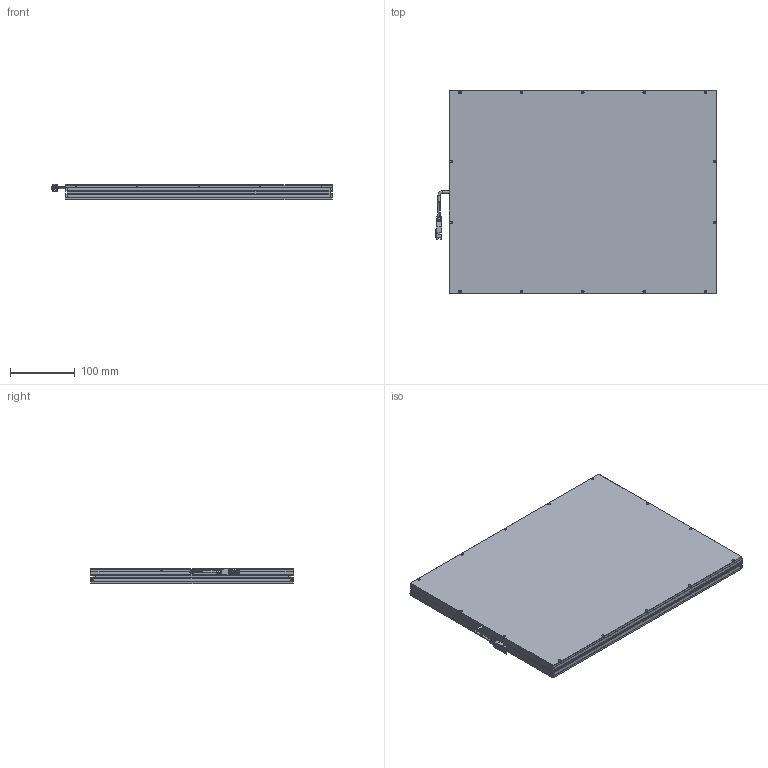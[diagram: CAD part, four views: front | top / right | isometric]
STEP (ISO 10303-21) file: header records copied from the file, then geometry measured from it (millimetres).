
FILE_DESCRIPTION (( 'STEP AP203' ), '1' );
FILE_NAME ('CRT-2FLD400300-¼òÒ×3DÍ¼.STEP', '2021-11-24T01:10:33', ( 'Admin' ), ( '' ), 'SwSTEP 2.0', 'SolidWorks 2018', '' );
FILE_SCHEMA (( 'CONFIG_CONTROL_DESIGN' ));
Length unit declared in the file: millimetre
Products named in the file (1): CRT-2FLD400300-潠眢3D芞
Bounding box: 434.95 x 314 x 23.5 mm (x, y, z)
Surface area: 439190.2 mm2 (no closed solid volume)
Topology: 0 solids, 13 shells, 324 faces, 1134 edges, 792 vertices
Faces by surface type: plane 164, cylinder 115, cone 39, bspline 6
Entity records: 12605 total; most frequent: CARTESIAN_POINT 2840, DIRECTION 2061, ORIENTED_EDGE 1773, EDGE_CURVE 1134, VERTEX_POINT 792, LINE 721, VECTOR 721, AXIS2_PLACEMENT_3D 670
